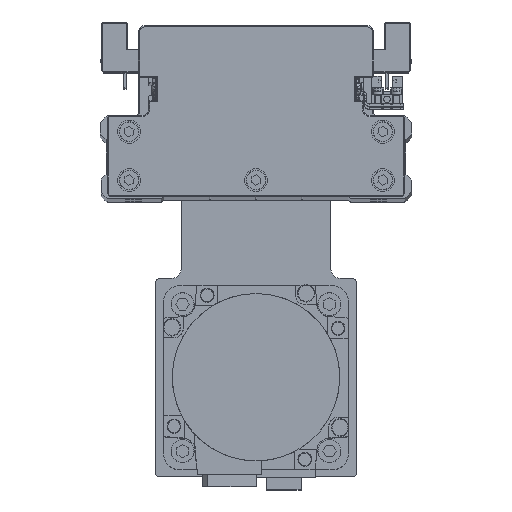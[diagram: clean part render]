
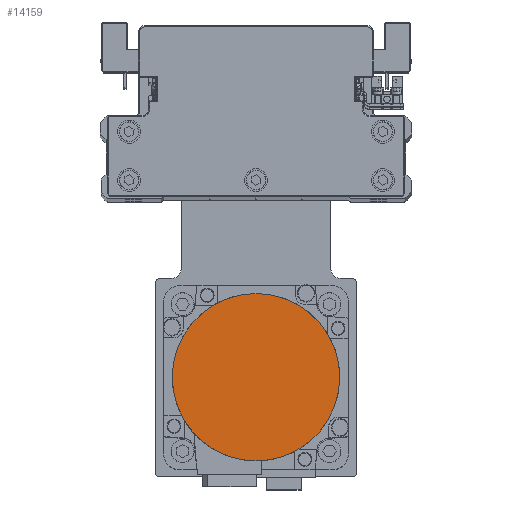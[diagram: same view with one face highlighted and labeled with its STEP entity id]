
A CAD part, top view. The second image highlights one B-rep face of the part: STEP entity #14159.
In plain terms, the highlighted planar face has unit normal (0, 0, 1) as drawn and (0, 0, -1) by its records, which use the part's own axes.
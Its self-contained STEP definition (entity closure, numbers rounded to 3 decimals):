
#2180 = VERTEX_POINT ( 'NONE', #4478 ) ;
#4149 = VERTEX_POINT ( 'NONE', #27537 ) ;
#4478 = CARTESIAN_POINT ( 'NONE',  ( 0., 36.3, -122.2 ) ) ;
#6889 = CIRCLE ( 'NONE', #29709, 36.3 ) ;
#8822 = DIRECTION ( 'NONE',  ( 1., 0., 0. ) ) ;
#9230 = DIRECTION ( 'NONE',  ( 0., 0., 1. ) ) ;
#11904 = PLANE ( 'NONE',  #20729 ) ;
#12385 = EDGE_LOOP ( 'NONE', ( #34595, #28231 ) ) ;
#13967 = CARTESIAN_POINT ( 'NONE',  ( 0., 0., -122.2 ) ) ;
#14159 = ADVANCED_FACE ( 'NONE', ( #39856 ), #11904, .F. ) ;
#19122 = AXIS2_PLACEMENT_3D ( 'NONE', #13967, #26401, #38847 ) ;
#20729 = AXIS2_PLACEMENT_3D ( 'NONE', #24351, #36772, #8822 ) ;
#21681 = DIRECTION ( 'NONE',  ( 0., -1., 0. ) ) ;
#24351 = CARTESIAN_POINT ( 'NONE',  ( 0., 0., -122.2 ) ) ;
#26401 = DIRECTION ( 'NONE',  ( 0., 0., 1. ) ) ;
#27537 = CARTESIAN_POINT ( 'NONE',  ( 0., -36.3, -122.2 ) ) ;
#28231 = ORIENTED_EDGE ( 'NONE', *, *, #33286, .F. ) ;
#29709 = AXIS2_PLACEMENT_3D ( 'NONE', #37189, #9230, #21681 ) ;
#33286 = EDGE_CURVE ( 'NONE', #4149, #2180, #6889, .T. ) ;
#34595 = ORIENTED_EDGE ( 'NONE', *, *, #37837, .F. ) ;
#36695 = CIRCLE ( 'NONE', #19122, 36.3 ) ;
#36772 = DIRECTION ( 'NONE',  ( 0., 0., 1. ) ) ;
#37189 = CARTESIAN_POINT ( 'NONE',  ( 0., 0., -122.2 ) ) ;
#37837 = EDGE_CURVE ( 'NONE', #2180, #4149, #36695, .T. ) ;
#38847 = DIRECTION ( 'NONE',  ( 0., 1., 0. ) ) ;
#39856 = FACE_OUTER_BOUND ( 'NONE', #12385, .T. ) ;
